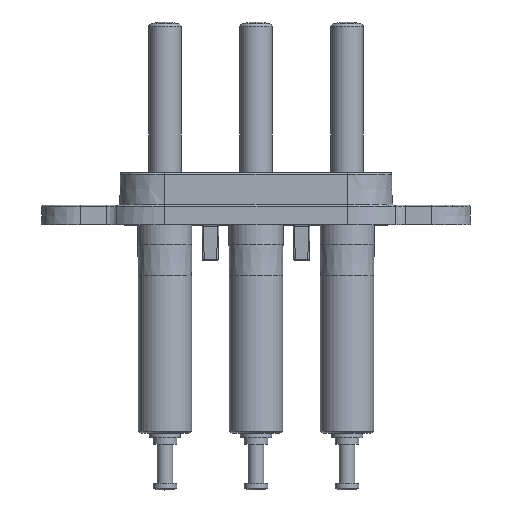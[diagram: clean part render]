
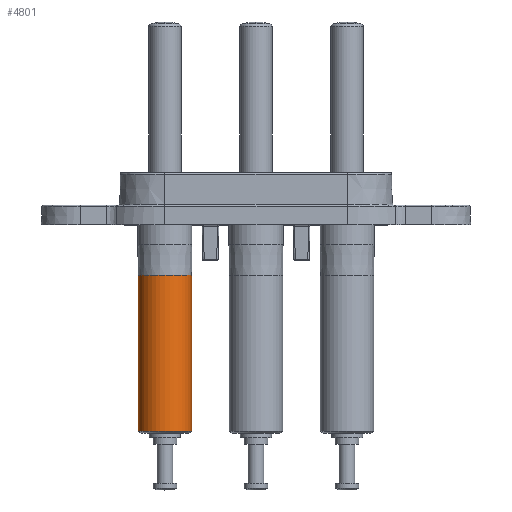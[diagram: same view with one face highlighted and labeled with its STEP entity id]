
A CAD part, top view. The second image highlights one B-rep face of the part: STEP entity #4801.
In plain terms, the highlighted cylindrical face has radius 2.05 mm (diameter 4.1 mm), a partial arc.
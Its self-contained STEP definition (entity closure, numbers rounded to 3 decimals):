
#70 = DIRECTION ( 'NONE',  ( 0., 0., 1. ) ) ;
#1120 = AXIS2_PLACEMENT_3D ( 'NONE', #4084, #6798, #6236 ) ;
#1225 = LINE ( 'NONE', #5588, #3545 ) ;
#1932 = CARTESIAN_POINT ( 'NONE',  ( -2.05, 0., -1.475 ) ) ;
#1981 = EDGE_LOOP ( 'NONE', ( #7059, #6198, #5148, #5782 ) ) ;
#2287 = DIRECTION ( 'NONE',  ( 0., 0., 1. ) ) ;
#2364 = AXIS2_PLACEMENT_3D ( 'NONE', #6819, #5836, #2571 ) ;
#2571 = DIRECTION ( 'NONE',  ( 1., 0., 0. ) ) ;
#2604 = CYLINDRICAL_SURFACE ( 'NONE', #4786, 2.05 ) ;
#2810 = CARTESIAN_POINT ( 'NONE',  ( 2.05, 0., -1.475 ) ) ;
#2932 = VERTEX_POINT ( 'NONE', #1932 ) ;
#3514 = EDGE_CURVE ( 'NONE', #5302, #5777, #4728, .T. ) ;
#3545 = VECTOR ( 'NONE', #2287, 1000. ) ;
#3641 = VECTOR ( 'NONE', #5946, 1000. ) ;
#3669 = CARTESIAN_POINT ( 'NONE',  ( 2.05, 0., 6.375 ) ) ;
#3990 = EDGE_CURVE ( 'NONE', #5302, #7031, #7064, .T. ) ;
#4084 = CARTESIAN_POINT ( 'NONE',  ( 0., 0., -1.475 ) ) ;
#4328 = CARTESIAN_POINT ( 'NONE',  ( 2.05, 0., -13.475 ) ) ;
#4461 = EDGE_CURVE ( 'NONE', #7031, #2932, #7044, .T. ) ;
#4482 = DIRECTION ( 'NONE',  ( 1., 0., 0. ) ) ;
#4602 = EDGE_CURVE ( 'NONE', #5777, #2932, #1225, .T. ) ;
#4728 = CIRCLE ( 'NONE', #2364, 2.05 ) ;
#4786 = AXIS2_PLACEMENT_3D ( 'NONE', #5511, #70, #4482 ) ;
#4801 = ADVANCED_FACE ( 'NONE', ( #5443 ), #2604, .T. ) ;
#5148 = ORIENTED_EDGE ( 'NONE', *, *, #4461, .F. ) ;
#5298 = CARTESIAN_POINT ( 'NONE',  ( -2.05, 0., -13.475 ) ) ;
#5302 = VERTEX_POINT ( 'NONE', #4328 ) ;
#5443 = FACE_OUTER_BOUND ( 'NONE', #1981, .T. ) ;
#5511 = CARTESIAN_POINT ( 'NONE',  ( 0., 0., 6.375 ) ) ;
#5588 = CARTESIAN_POINT ( 'NONE',  ( -2.05, 0., 6.375 ) ) ;
#5777 = VERTEX_POINT ( 'NONE', #5298 ) ;
#5782 = ORIENTED_EDGE ( 'NONE', *, *, #3990, .F. ) ;
#5836 = DIRECTION ( 'NONE',  ( 0., 0., 1. ) ) ;
#5946 = DIRECTION ( 'NONE',  ( 0., 0., 1. ) ) ;
#6198 = ORIENTED_EDGE ( 'NONE', *, *, #4602, .T. ) ;
#6236 = DIRECTION ( 'NONE',  ( 1., 0., 0. ) ) ;
#6798 = DIRECTION ( 'NONE',  ( 0., 0., 1. ) ) ;
#6819 = CARTESIAN_POINT ( 'NONE',  ( 0., 0., -13.475 ) ) ;
#7031 = VERTEX_POINT ( 'NONE', #2810 ) ;
#7044 = CIRCLE ( 'NONE', #1120, 2.05 ) ;
#7059 = ORIENTED_EDGE ( 'NONE', *, *, #3514, .T. ) ;
#7064 = LINE ( 'NONE', #3669, #3641 ) ;
